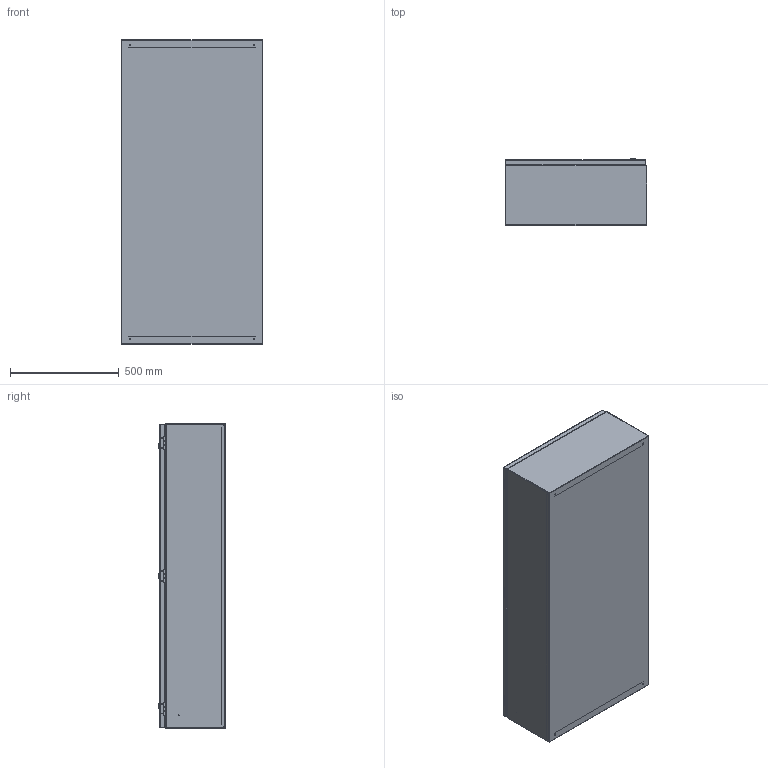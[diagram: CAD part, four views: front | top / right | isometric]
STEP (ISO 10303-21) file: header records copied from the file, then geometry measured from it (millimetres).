
FILE_DESCRIPTION (( 'STEP AP214' ), '1' );
FILE_NAME ('ÙÌÏ-07-1400õ650õ285-IP54-ÓÕË2-ÊÝÀÇ.STEP', '2023-01-24T12:24:21', ( '' ), ( '' ), 'SwSTEP 2.0', 'SolidWorks 2018', '' );
FILE_SCHEMA (( 'AUTOMOTIVE_DESIGN' ));
Length unit declared in the file: millimetre
Products named in the file (1): ÙÌÏ-07-1400õ650õ285-IP54-ÓÕË2-ÊÝÀÇ
Bounding box: 650 x 306.7 x 1400 mm (x, y, z)
Surface area: 6117754.9 mm2 (no closed solid volume)
Topology: 0 solids, 33 shells, 196 faces, 728 edges, 553 vertices
Faces by surface type: plane 93, cylinder 79, bspline 12, torus 6, cone 6
Entity records: 11162 total; most frequent: CARTESIAN_POINT 2868, DIRECTION 1311, ORIENTED_EDGE 1012, EDGE_CURVE 728, VERTEX_POINT 553, AXIS2_PLACEMENT_3D 446, VECTOR 419, LINE 419
